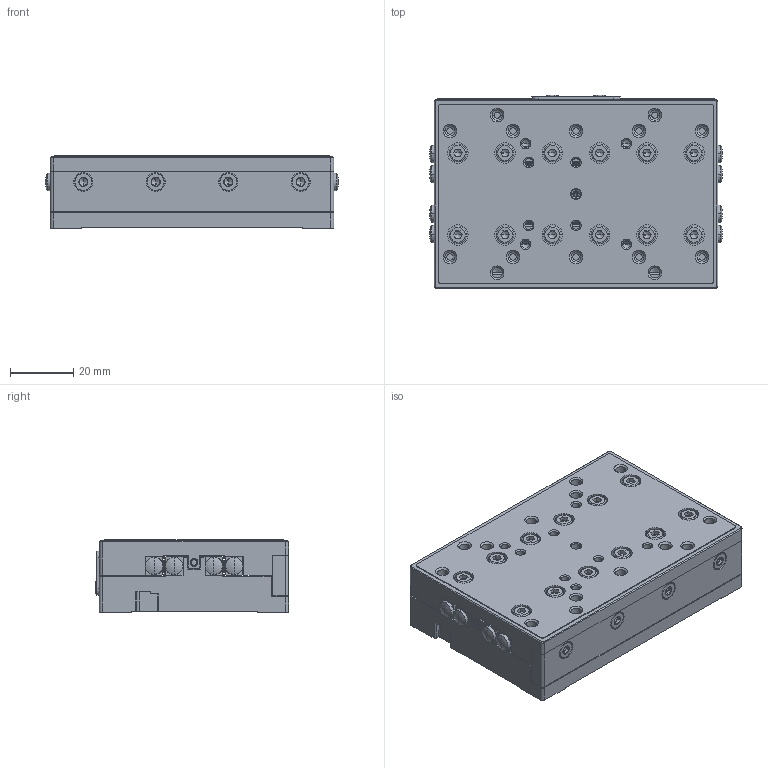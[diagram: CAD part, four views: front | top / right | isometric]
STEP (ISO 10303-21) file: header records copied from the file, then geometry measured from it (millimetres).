
FILE_DESCRIPTION (( 'STEP AP203' ), '1' );
FILE_NAME ('ls2-6910z_jc.STEP', '2023-04-26T05:45:52', ( '微软用户' ), ( '微软中国' ), 'SwSTEP 2.0', 'SolidWorks 2021', '' );
FILE_SCHEMA (( 'CONFIG_CONTROL_DESIGN' ));
Length unit declared in the file: millimetre
Products named in the file (1): ls2-6910z_jc
Bounding box: 93 x 61.3 x 23 mm (x, y, z)
Volume: 113331.6 mm3; surface area: 59013 mm2
Topology: 38 solids, 38 shells, 2124 faces, 5300 edges, 3255 vertices
Faces by surface type: plane 941, cylinder 577, cone 508, bspline 48, torus 38, sphere 12
Entity records: 81883 total; most frequent: CARTESIAN_POINT 30509, DIRECTION 11000, ORIENTED_EDGE 10464, EDGE_CURVE 5232, AXIS2_PLACEMENT_3D 4034, VERTEX_POINT 3255, LINE 2932, VECTOR 2932
